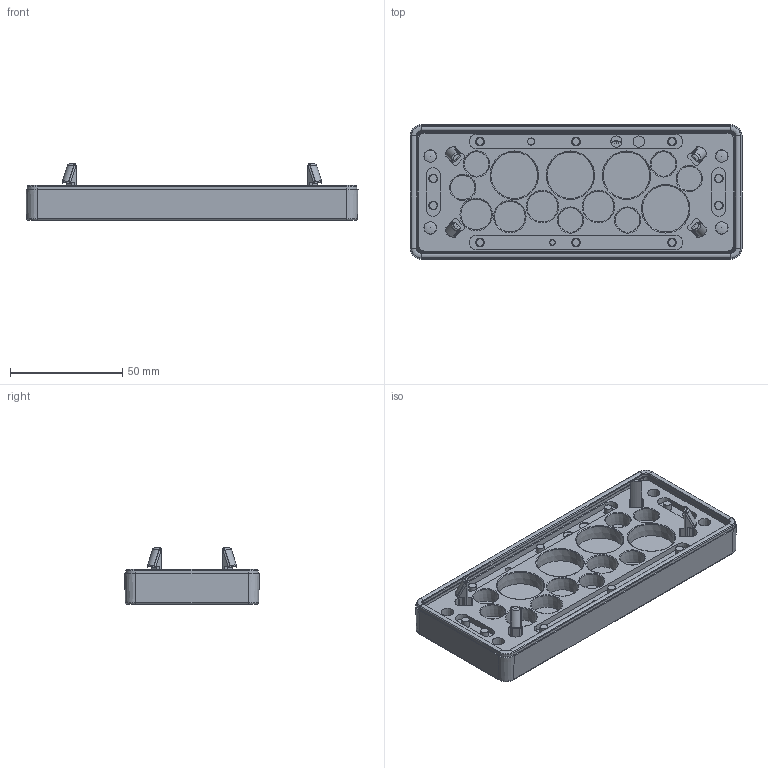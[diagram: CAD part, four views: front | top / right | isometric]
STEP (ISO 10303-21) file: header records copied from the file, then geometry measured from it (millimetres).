
FILE_DESCRIPTION(/* description */ (''),/* implementation_level */ '2;1');
FILE_NAME(/* name */ 'C:\SapWorkDir\Inventor\MP1\ConvertTempPath\87_16_121487_00_A_220620_KDP-X 24-14 ZSB - Blech 1,5-2,0.stp',/* time_stamp */ '2022-10-05T15:32:35+02:00',/* author */ ('BAUER'),/* organization */ (''),/* preprocessor_version */ 'ST-DEVELOPER v16.13',/* originating_system */ 'Autodesk Inventor 2018',/* authorisation */ '');
FILE_SCHEMA (('AUTOMOTIVE_DESIGN { 1 0 10303 214 3 1 1 }'));
Products named in the file (5): 121487; 121383; 105843_MPS_3F1; 105841_MPS_3F1; 104104_MPS_3F1
Assembly tree (4 placements, depth 2):
  121487
    121383
    105843_MPS_3F1
    105841_MPS_3F1
    104104_MPS_3F1
Bounding box: 148 x 60 x 25 mm (x, y, z)
Volume: 72367.1 mm3; surface area: 70103.6 mm2
Topology: 4 solids, 4 shells, 2960 faces, 7629 edges, 4643 vertices
Faces by surface type: plane 1324, bspline 597, cylinder 449, cone 292, torus 194, sphere 104
Full cylindrical faces by diameter (mm): 2.5 x1, 2.6 x1, 3 x1, 3.1 x1, 3.6 x10, 5 x2, 5.5 x8, 6.5 x4, 7.5 x4
Entity records: 98382 total; most frequent: CARTESIAN_POINT 29202, ORIENTED_EDGE 14578, DIRECTION 13576, EDGE_CURVE 7289, VERTEX_POINT 4629, AXIS2_PLACEMENT_3D 4601, LINE 4374, VECTOR 4374
